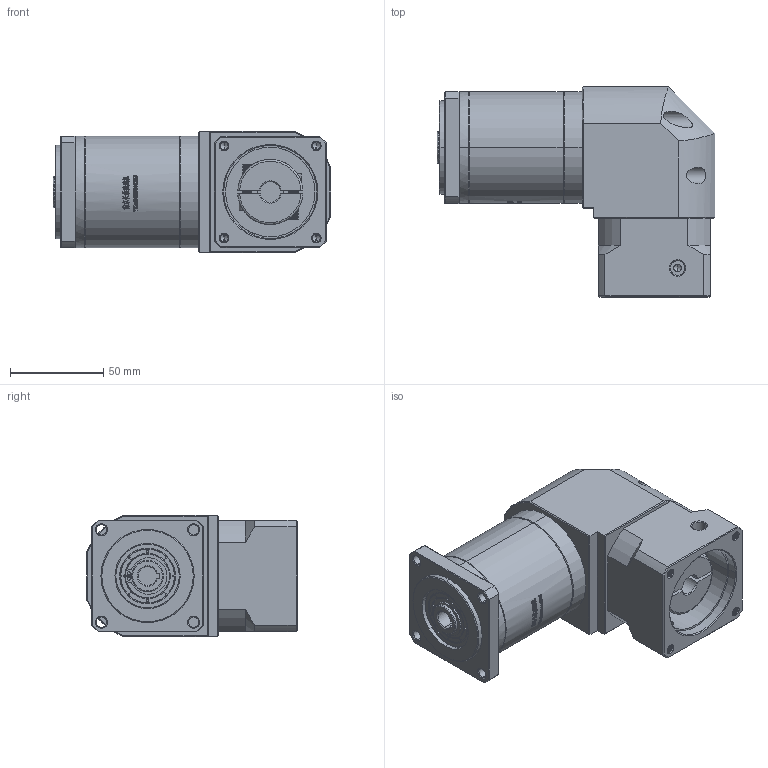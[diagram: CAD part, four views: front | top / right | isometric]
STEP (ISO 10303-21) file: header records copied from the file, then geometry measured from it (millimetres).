
FILE_DESCRIPTION (( 'STEP AP214' ), '1' );
FILE_NAME ('ZFR60-K10-L2-11-50-70-M5.STEP', '2022-04-20T08:46:25', ( '' ), ( 'Microsoft' ), 'SwSTEP 2.0', 'SolidWorks 2016', '' );
FILE_SCHEMA (( 'AUTOMOTIVE_DESIGN' ));
Length unit declared in the file: millimetre
Products named in the file (1): ZFR60-K10-L2-11-50-70-M5
Bounding box: 149 x 112.7 x 65 mm (x, y, z)
Volume: 579586.1 mm3; surface area: 81151.4 mm2
Topology: 5 solids, 6 shells, 2627 faces, 7174 edges, 4683 vertices
Faces by surface type: plane 1390, bspline 572, cylinder 359, cone 282, torus 24
Entity records: 142855 total; most frequent: CARTESIAN_POINT 52726, ORIENTED_EDGE 14308, DIRECTION 10340, EDGE_CURVE 7154, VERTEX_POINT 4683, VECTOR 4338, LINE 4338, AXIS2_PLACEMENT_3D 3001
